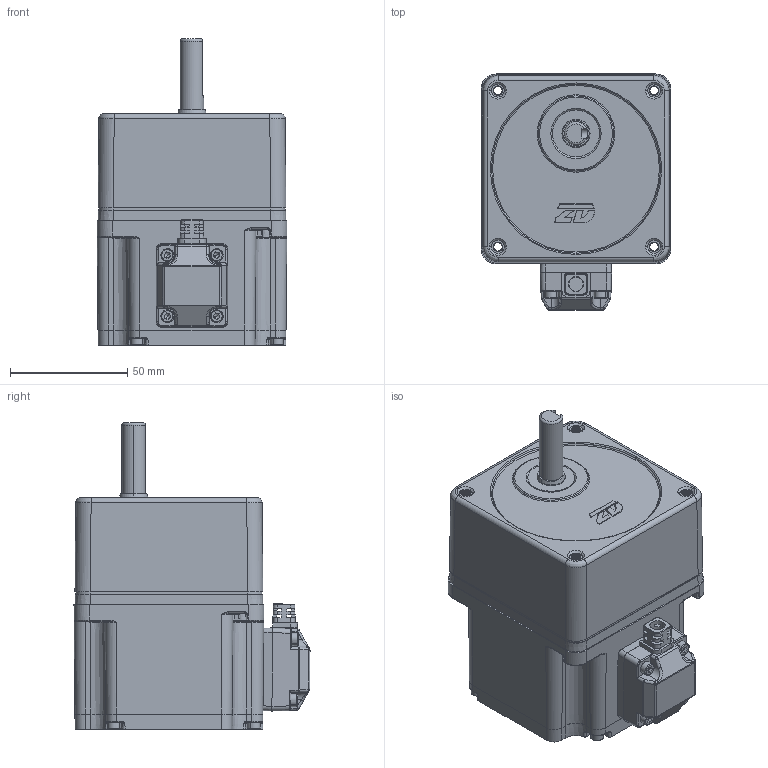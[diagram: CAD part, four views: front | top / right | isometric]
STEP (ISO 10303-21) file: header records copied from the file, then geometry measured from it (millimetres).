
FILE_DESCRIPTION (( 'STEP AP203' ), '1' );
FILE_NAME ('4GNK2淕儂湍諉盄碟.STEP', '2023-10-06T08:40:50', ( '' ), ( '' ), 'SwSTEP 2.0', 'SolidWorks 2019', '' );
FILE_SCHEMA (( 'CONFIG_CONTROL_DESIGN' ));
Length unit declared in the file: millimetre
Products named in the file (26): ____CHAMFER1-770^____ADMI242897E1RCCY_ASM______________________80K2____________.STEP_4GNK2整机带接线盒(2)_4GNK2整机带接线盒; ____CHAMFER1-773^____ADMI242897E1RCCY_ASM______________________80K2____________.STEP_4GNK2整机带接线盒(2)_4GNK2整机带接线盒; 复件 (2) ^_80K2____________.STEP_4GNK2整机带接线盒(2)_4GNK2整机带接线盒; ZD-4GNK2-504-001________^______2_4GNK2整机带接线盒(2)_4GNK2整机带接线盒; 4GNK2整机带接线盒(2)^4GNK2整机带接线盒; ____MANIFOLD_SOLID_BREP_780^____ADMI242897E1RCCY_ASM______________________80K2____________.STEP_4GNK2整机带接线盒(2)_4GNK2整机带接线盒; ^80K2____________.STEP_4GNK2整机带接线盒(2)_4GNK2整机带接线盒; ____CHAMFER1-772^____ADMI242897E1RCCY_ASM______________________80K2____________.STEP_4GNK2整机带接线盒(2)_4GNK2整机带接线盒; ^_80K2____________.STEP_4GNK2整机带接线盒(2)_4GNK2整机带接线盒; _____X2_52079664_X0_-_X2_62C94F-779^____ADMI242897E1RCCY_ASM______________________80K2____________.STEP_4GNK2整机带接线盒(2)_4GNK2整机带接线盒; __________________^__80K2____________.STEP_4GNK2整机带接线盒(2)_4GNK2整机带接线盒; ____CHAMFER1-774^____ADMI242897E1RCCY_ASM______________________80K2____________.STEP_4GNK2整机带接线盒(2)_4GNK2整机带接线盒; 80K2____________.STEP^4GNK2整机带接线盒(2)_4GNK2整机带接线盒; ____ADMI242897E1RCCY_ASM^_____________________80K2____________.STEP_4GNK2整机带接线盒(2)_4GNK2整机带接线盒; ____1^_____________________80K2____________.STEP_4GNK2整机带接线盒(2)_4GNK2整机带接线盒; 4GNK2淕儂湍諉盄碟; ______2^4GNK2整机带接线盒(2)_4GNK2整机带接线盒; _____X2_52079664_X0_-_X2_62C94F-778^____ADMI242897E1RCCY_ASM______________________80K2____________.STEP_4GNK2整机带接线盒(2)_4GNK2整机带接线盒; 复件 (3) ^_80K2____________.STEP_4GNK2整机带接线盒(2)_4GNK2整机带接线盒; ____CHAMFER1-776^____ADMI242897E1RCCY_ASM______________________80K2____________.STEP_4GNK2整机带接线盒(2)_4GNK2整机带接线盒; _____X2_52079664_X0_-_X2_62C94F-775^____ADMI242897E1RCCY_ASM______________________80K2____________.STEP_4GNK2整机带接线盒(2)_4GNK2整机带接线盒; ____CHAMFER1-771^____ADMI242897E1RCCY_ASM______________________80K2____________.STEP_4GNK2整机带接线盒(2)_4GNK2整机带接线盒; ZD-4GNK2-505-001________^______2_4GNK2整机带接线盒(2)_4GNK2整机带接线盒; ____MANIFOLD_SOLID_BREP_781^____ADMI242897E1RCCY_ASM______________________80K2____________.STEP_4GNK2整机带接线盒(2)_4GNK2整机带接线盒; _____X2_52079664_X0_-_X2_62C94F-777^____ADMI242897E1RCCY_ASM______________________80K2____________.STEP_4GNK2整机带接线盒(2)_4GNK2整机带接线盒
Assembly tree (28 placements, depth 8):
  4GNK2淕儂湍諉盄碟
    4GNK2整机带接线盒(2)^4GNK2整机带接线盒
      ______2^4GNK2整机带接线盒(2)_4GNK2整机带接线盒
        ZD-4GNK2-504-001________^______2_4GNK2整机带接线盒(2)_4GNK2整机带接线盒
        ZD-4GNK2-505-001________^______2_4GNK2整机带接线盒(2)_4GNK2整机带接线盒
      80K2____________.STEP^4GNK2整机带接线盒(2)_4GNK2整机带接线盒
        ^80K2____________.STEP_4GNK2整机带接线盒(2)_4GNK2整机带接线盒
          ^_80K2____________.STEP_4GNK2整机带接线盒(2)_4GNK2整机带接线盒
            __________________^__80K2____________.STEP_4GNK2整机带接线盒(2)_4GNK2整机带接线盒
              ____ADMI242897E1RCCY_ASM^_____________________80K2____________.STEP_4GNK2整机带接线盒(2)_4GNK2整机带接线盒
                ____CHAMFER1-770^____ADMI242897E1RCCY_ASM______________________80K2____________.STEP_4GNK2整机带接线盒(2)_4GNK2整机带接线盒
                ____CHAMFER1-771^____ADMI242897E1RCCY_ASM______________________80K2____________.STEP_4GNK2整机带接线盒(2)_4GNK2整机带接线盒
                ____CHAMFER1-772^____ADMI242897E1RCCY_ASM______________________80K2____________.STEP_4GNK2整机带接线盒(2)_4GNK2整机带接线盒
                ____CHAMFER1-773^____ADMI242897E1RCCY_ASM______________________80K2____________.STEP_4GNK2整机带接线盒(2)_4GNK2整机带接线盒
                ____CHAMFER1-774^____ADMI242897E1RCCY_ASM______________________80K2____________.STEP_4GNK2整机带接线盒(2)_4GNK2整机带接线盒
                _____X2_52079664_X0_-_X2_62C94F-775^____ADMI242897E1RCCY_ASM______________________80K2____________.STEP_4GNK2整机带接线盒(2)_4GNK2整机带接线盒
                ____CHAMFER1-776^____ADMI242897E1RCCY_ASM______________________80K2____________.STEP_4GNK2整机带接线盒(2)_4GNK2整机带接线盒
                _____X2_52079664_X0_-_X2_62C94F-777^____ADMI242897E1RCCY_ASM______________________80K2____________.STEP_4GNK2整机带接线盒(2)_4GNK2整机带接线盒
                _____X2_52079664_X0_-_X2_62C94F-778^____ADMI242897E1RCCY_ASM______________________80K2____________.STEP_4GNK2整机带接线盒(2)_4GNK2整机带接线盒
                _____X2_52079664_X0_-_X2_62C94F-779^____ADMI242897E1RCCY_ASM______________________80K2____________.STEP_4GNK2整机带接线盒(2)_4GNK2整机带接线盒
                ____MANIFOLD_SOLID_BREP_780^____ADMI242897E1RCCY_ASM______________________80K2____________.STEP_4GNK2整机带接线盒(2)_4GNK2整机带接线盒
                ____MANIFOLD_SOLID_BREP_781^____ADMI242897E1RCCY_ASM______________________80K2____________.STEP_4GNK2整机带接线盒(2)_4GNK2整机带接线盒
              ____1^_____________________80K2____________.STEP_4GNK2整机带接线盒(2)_4GNK2整机带接线盒
          ^_80K2____________.STEP_4GNK2整机带接线盒(2)_4GNK2整机带接线盒
          复件 (2) ^_80K2____________.STEP_4GNK2整机带接线盒(2)_4GNK2整机带接线盒
          复件 (3) ^_80K2____________.STEP_4GNK2整机带接线盒(2)_4GNK2整机带接线盒  x4
Bounding box: 80.82 x 100.45 x 130.5 mm (x, y, z)
Volume: 630007.1 mm3; surface area: 108224.9 mm2
Topology: 21 solids, 25 shells, 2610 faces, 7135 edges, 4478 vertices
Faces by surface type: plane 1180, cylinder 827, cone 219, bspline 188, torus 141, sphere 55
Entity records: 104129 total; most frequent: CARTESIAN_POINT 39755, ORIENTED_EDGE 13764, DIRECTION 11860, EDGE_CURVE 6882, VERTEX_POINT 4379, AXIS2_PLACEMENT_3D 4007, LINE 3846, VECTOR 3846
